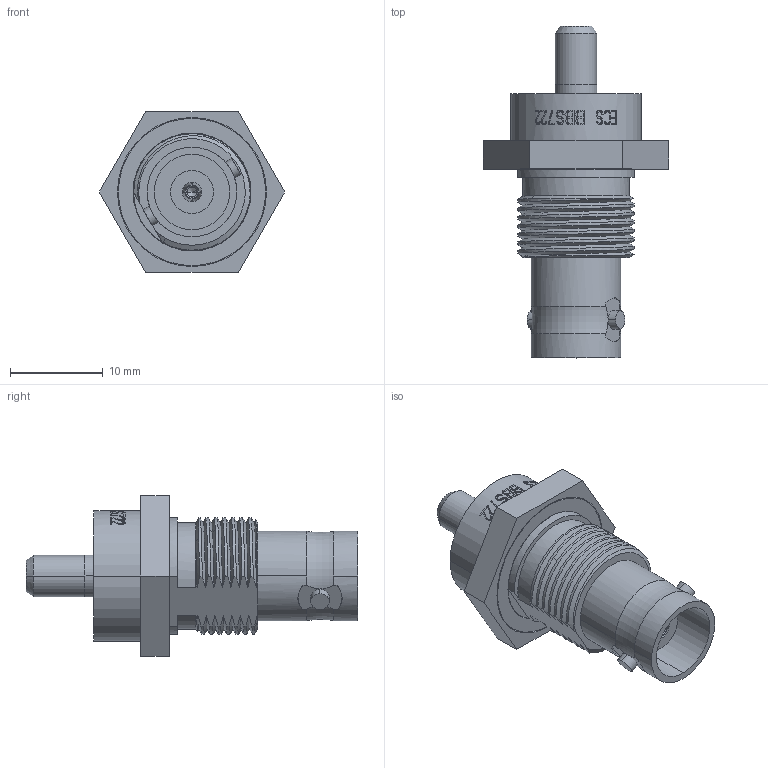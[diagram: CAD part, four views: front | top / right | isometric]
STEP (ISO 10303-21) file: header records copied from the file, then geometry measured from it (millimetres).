
FILE_DESCRIPTION((''),'2;1');
FILE_NAME('BBS722','2019-12-02T13:30:53',('paul.nurczyk'),('Carlisle Interconnect Technologies'),'CREO PARAMETRIC BY PTC INC, 2017260','CREO PARAMETRIC BY PTC INC, 2017260','');
FILE_SCHEMA(('CONFIG_CONTROL_DESIGN'));
Length unit declared in the file: inch
Products named in the file (1): BBS722
Bounding box: 19.97 x 35.76 x 17.3 mm (x, y, z)
Volume: 3186.2 mm3; surface area: 2537.4 mm2
Topology: 1 solids, 1 shells, 440 faces, 1217 edges, 797 vertices
Faces by surface type: bspline 216, plane 146, cylinder 60, cone 16, torus 2
Entity records: 20516 total; most frequent: CARTESIAN_POINT 9798, ORIENTED_EDGE 2430, DIRECTION 1979, EDGE_CURVE 1215, VERTEX_POINT 797, AXIS2_PLACEMENT_3D 761, CIRCLE 537, EDGE_LOOP 468
